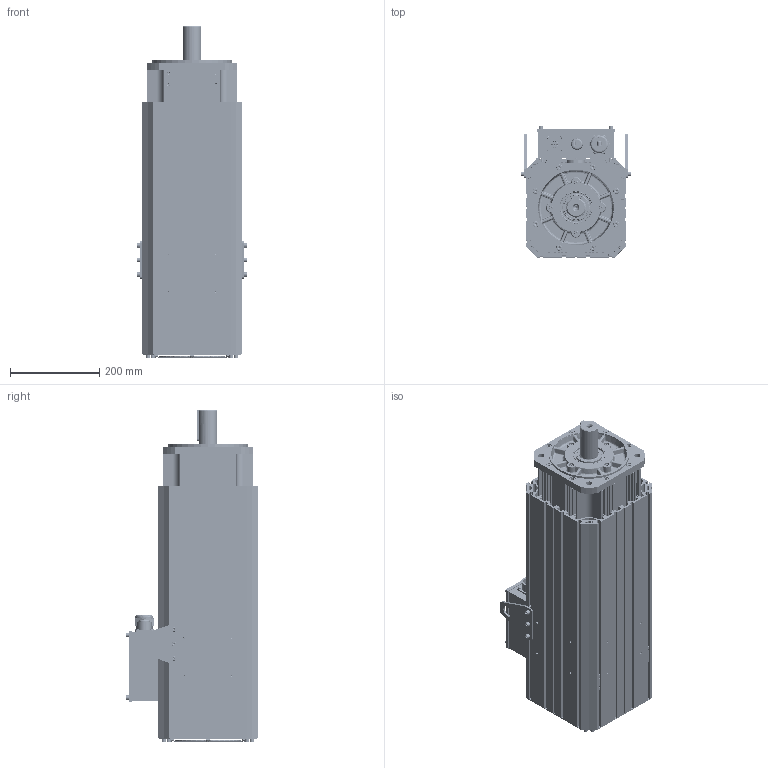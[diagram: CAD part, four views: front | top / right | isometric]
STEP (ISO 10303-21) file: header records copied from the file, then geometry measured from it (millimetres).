
FILE_DESCRIPTION (( 'STEP AP214' ), '1' );
FILE_NAME ('VM7-M20D-02215-D2FN.STEP', '2022-04-02T01:57:56', ( '' ), ( '' ), 'SwSTEP 2.0', 'SolidWorks 2014', '' );
FILE_SCHEMA (( 'AUTOMOTIVE_DESIGN' ));
Length unit declared in the file: millimetre
Products named in the file (3): VM7-M20D-02215-D2FN; 翋极ㄗVM7-M20Dㄘ; 俋褲ㄗVM7-M20Dㄘ
Assembly tree (2 placements, depth 2):
  VM7-M20D-02215-D2FN
    翋极ㄗVM7-M20Dㄘ
    俋褲ㄗVM7-M20Dㄘ
Bounding box: 246.2 x 294.7 x 743 mm (x, y, z)
Volume: 2134379.2 mm3; surface area: 3171710.2 mm2
Topology: 45 solids, 183 shells, 5660 faces, 14472 edges, 9117 vertices
Faces by surface type: plane 3221, cylinder 1323, cone 587, bspline 529
Entity records: 187119 total; most frequent: CARTESIAN_POINT 50233, ORIENTED_EDGE 28442, DIRECTION 27688, EDGE_CURVE 14230, AXIS2_PLACEMENT_3D 9527, VERTEX_POINT 9117, VECTOR 8634, LINE 8634
